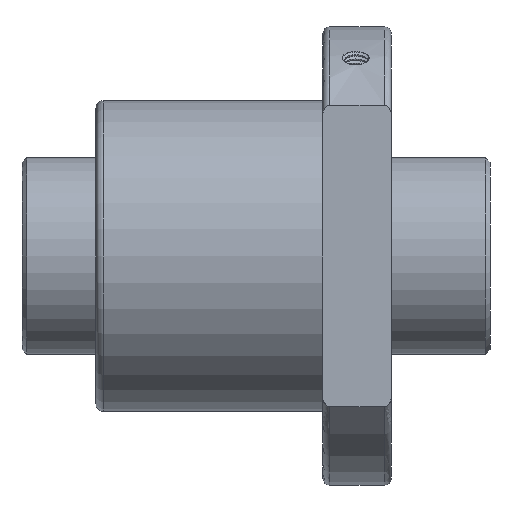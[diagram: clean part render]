
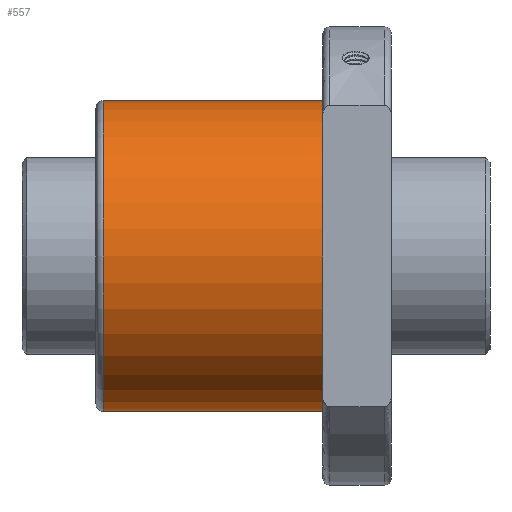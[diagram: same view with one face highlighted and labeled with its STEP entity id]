
A CAD part, front view. The second image highlights one B-rep face of the part: STEP entity #557.
In plain terms, the highlighted cylindrical face has radius 31.5 mm (diameter 63 mm), a full revolution.
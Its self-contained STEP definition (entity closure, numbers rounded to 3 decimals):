
#101=CYLINDRICAL_SURFACE('',#648,31.5);
#177=ORIENTED_EDGE('',*,*,#285,.T.);
#178=ORIENTED_EDGE('',*,*,#263,.F.);
#263=EDGE_CURVE('',#327,#327,#372,.T.);
#285=EDGE_CURVE('',#349,#349,#388,.T.);
#327=VERTEX_POINT('',#896);
#349=VERTEX_POINT('',#951);
#372=CIRCLE('',#622,31.5);
#388=CIRCLE('',#649,31.5);
#442=EDGE_LOOP('',(#177));
#443=EDGE_LOOP('',(#178));
#513=FACE_BOUND('',#442,.T.);
#514=FACE_BOUND('',#443,.T.);
#557=ADVANCED_FACE('',(#513,#514),#101,.T.);
#622=AXIS2_PLACEMENT_3D('',#895,#720,#721);
#648=AXIS2_PLACEMENT_3D('',#949,#778,#779);
#649=AXIS2_PLACEMENT_3D('',#950,#780,#781);
#720=DIRECTION('',(1.,0.,0.));
#721=DIRECTION('',(0.,0.,-1.));
#778=DIRECTION('',(1.,0.,0.));
#779=DIRECTION('',(0.,0.,-1.));
#780=DIRECTION('',(1.,0.,0.));
#781=DIRECTION('',(0.,0.,-1.));
#895=CARTESIAN_POINT('',(-34.,0.,0.));
#896=CARTESIAN_POINT('',(-34.,0.,-31.5));
#949=CARTESIAN_POINT('',(-95.,0.,0.));
#950=CARTESIAN_POINT('',(-78.5,0.,0.));
#951=CARTESIAN_POINT('',(-78.5,0.,-31.5));
